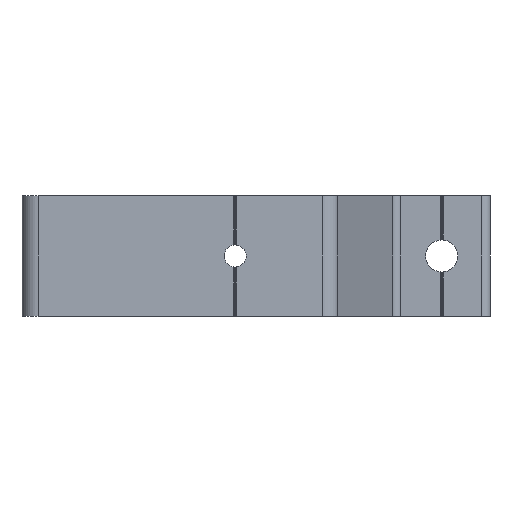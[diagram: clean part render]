
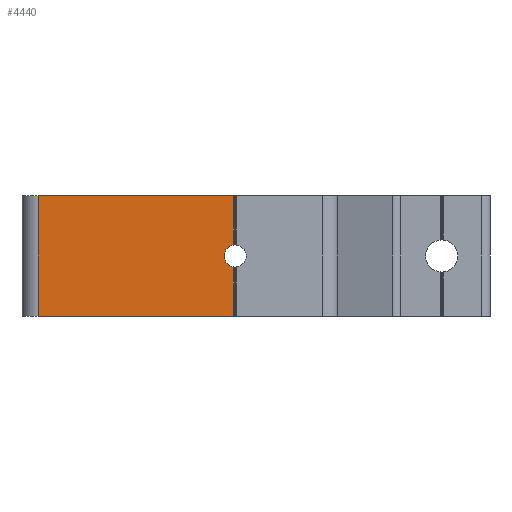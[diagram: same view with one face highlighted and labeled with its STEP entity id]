
A CAD part, left-side view. The second image highlights one B-rep face of the part: STEP entity #4440.
In plain terms, the highlighted planar face has unit normal (-1, 0, 0).
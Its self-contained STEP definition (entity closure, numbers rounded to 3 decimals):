
#29=PLANE('',#4736);
#157=FACE_OUTER_BOUND('',#387,.T.);
#387=EDGE_LOOP('',(#3047,#3048,#3049,#3050,#3051,#3052));
#640=LINE('',#6824,#1083);
#641=LINE('',#6826,#1084);
#642=LINE('',#6828,#1085);
#643=LINE('',#6830,#1086);
#644=LINE('',#6831,#1087);
#1083=VECTOR('',#5310,10.);
#1084=VECTOR('',#5311,10.);
#1085=VECTOR('',#5312,10.);
#1086=VECTOR('',#5313,10.);
#1087=VECTOR('',#5314,10.);
#1508=CIRCLE('',#4723,2.75);
#1810=VERTEX_POINT('',#6748);
#1811=VERTEX_POINT('',#6755);
#1828=VERTEX_POINT('',#6823);
#1829=VERTEX_POINT('',#6825);
#1830=VERTEX_POINT('',#6827);
#1831=VERTEX_POINT('',#6829);
#2295=EDGE_CURVE('',#1811,#1810,#1508,.T.);
#2314=EDGE_CURVE('',#1810,#1828,#640,.T.);
#2315=EDGE_CURVE('',#1828,#1829,#641,.T.);
#2316=EDGE_CURVE('',#1830,#1829,#642,.T.);
#2317=EDGE_CURVE('',#1830,#1831,#643,.T.);
#2318=EDGE_CURVE('',#1831,#1811,#644,.T.);
#3047=ORIENTED_EDGE('',*,*,#2295,.T.);
#3048=ORIENTED_EDGE('',*,*,#2314,.T.);
#3049=ORIENTED_EDGE('',*,*,#2315,.T.);
#3050=ORIENTED_EDGE('',*,*,#2316,.F.);
#3051=ORIENTED_EDGE('',*,*,#2317,.T.);
#3052=ORIENTED_EDGE('',*,*,#2318,.T.);
#4440=ADVANCED_FACE('',(#157),#29,.T.);
#4723=AXIS2_PLACEMENT_3D('',#6756,#5281,#5282);
#4736=AXIS2_PLACEMENT_3D('',#6822,#5308,#5309);
#5281=DIRECTION('center_axis',(1.,0.,0.));
#5282=DIRECTION('ref_axis',(0.,1.,0.));
#5308=DIRECTION('center_axis',(-1.,0.,0.));
#5309=DIRECTION('ref_axis',(0.,0.,1.));
#5310=DIRECTION('',(0.,0.,1.));
#5311=DIRECTION('',(0.,1.,0.));
#5312=DIRECTION('',(0.,0.,1.));
#5313=DIRECTION('',(0.,-1.,0.));
#5314=DIRECTION('',(0.,0.,1.));
#6748=CARTESIAN_POINT('',(-151.408,69.137,17.717));
#6755=CARTESIAN_POINT('',(-151.408,69.137,12.283));
#6756=CARTESIAN_POINT('Origin',(-151.408,68.713,15.));
#6822=CARTESIAN_POINT('Origin',(-151.408,69.137,0.));
#6823=CARTESIAN_POINT('',(-151.408,69.137,30.));
#6824=CARTESIAN_POINT('',(-151.408,69.137,0.));
#6825=CARTESIAN_POINT('',(-151.408,117.813,30.));
#6826=CARTESIAN_POINT('',(-151.408,117.813,30.));
#6827=CARTESIAN_POINT('',(-151.408,117.813,0.));
#6828=CARTESIAN_POINT('',(-151.408,117.813,0.));
#6829=CARTESIAN_POINT('',(-151.408,69.137,0.));
#6830=CARTESIAN_POINT('',(-151.408,117.813,0.));
#6831=CARTESIAN_POINT('',(-151.408,69.137,0.));
